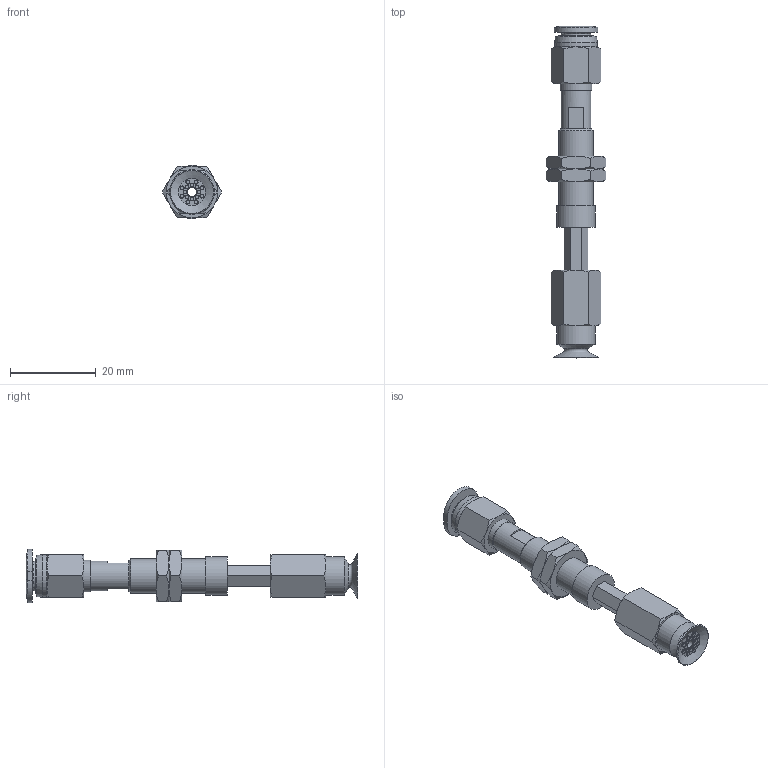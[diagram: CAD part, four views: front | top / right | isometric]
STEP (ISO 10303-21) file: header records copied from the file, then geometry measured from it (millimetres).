
FILE_DESCRIPTION(('STEP AP203'),'1');
FILE_NAME('-O.stp','2025-08-12T07:52:06',(' '),(' '),'Spatial InterOp 3D',' ',' ');
FILE_SCHEMA(('CONFIG_CONTROL_DESIGN'));
Length unit declared in the file: millimetre
Products named in the file (7): BNABPATH-10A-10-※-O; NAPATH-10A-10--F; Nut-10A-S; PC-C_06-M5; BPAG-10A-※; NAPATH-10A-10--M; ADAPTER
Assembly tree (7 placements, depth 2):
  BNABPATH-10A-10-※-O
    NAPATH-10A-10--F
    Nut-10A-S  x2
    PC-C_06-M5
    BPAG-10A-※
    NAPATH-10A-10--M
    ADAPTER
Bounding box: 13.86 x 77.48 x 12.4 mm (x, y, z)
Volume: 4303.7 mm3; surface area: 5251.2 mm2
Topology: 7 solids, 7 shells, 206 faces, 412 edges, 252 vertices
Faces by surface type: plane 86, cone 62, cylinder 39, torus 12, bspline 4, revolution 3
Full cylindrical faces by diameter (mm): 0.9 x16, 2 x3, 4 x4, 4.134 x1, 5 x1, 6 x2, 7 x2, 7.188 x2, 7.4 x1, 8 x1, 8.2 x1, 9 x2, 10 x1
Entity records: 5120 total; most frequent: CARTESIAN_POINT 1348, DIRECTION 719, ORIENTED_EDGE 586, AXIS2_PLACEMENT_3D 322, EDGE_CURVE 293, EDGE_LOOP 286, FACE_OUTER_BOUND 231, VERTEX_POINT 215
